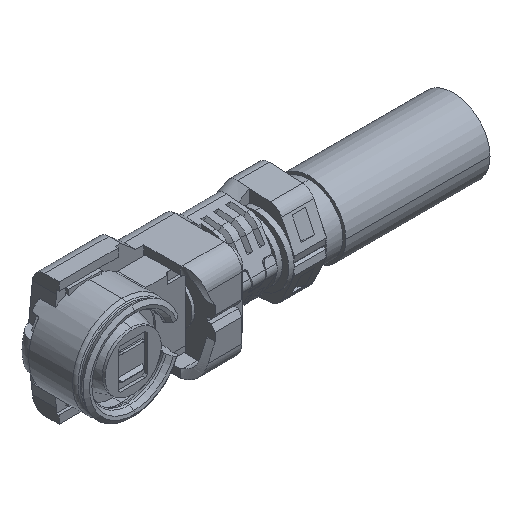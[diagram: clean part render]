
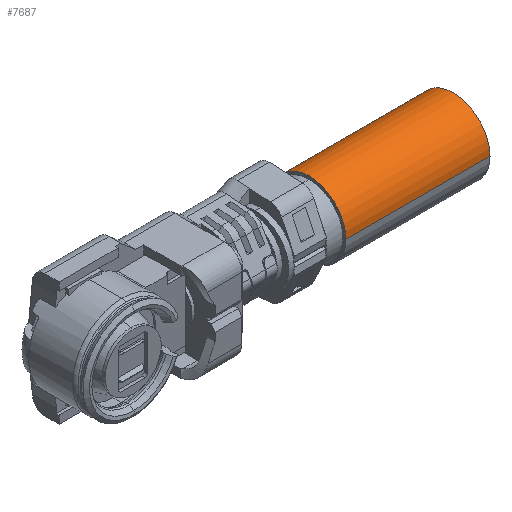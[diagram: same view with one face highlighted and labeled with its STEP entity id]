
A CAD part, isometric view. The second image highlights one B-rep face of the part: STEP entity #7687.
In plain terms, the highlighted cylindrical face has radius 0.685 mm (diameter 1.37 mm), a partial arc.
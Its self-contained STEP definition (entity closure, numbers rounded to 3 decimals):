
#153 = CARTESIAN_POINT ( 'NONE',  ( 6.65, 1.61, 0. ) ) ;
#185 = EDGE_CURVE ( 'NONE', #2855, #8351, #2047, .T. ) ;
#389 = EDGE_CURVE ( 'NONE', #1649, #7450, #2431, .T. ) ;
#684 = DIRECTION ( 'NONE',  ( 0., -1., 0. ) ) ;
#1004 = FACE_OUTER_BOUND ( 'NONE', #3362, .T. ) ;
#1047 = VECTOR ( 'NONE', #5431, 1000. ) ;
#1118 = CARTESIAN_POINT ( 'NONE',  ( 3.96, 0.925, 0. ) ) ;
#1290 = DIRECTION ( 'NONE',  ( -1., 0., 0. ) ) ;
#1521 = DIRECTION ( 'NONE',  ( 1., 0., 0. ) ) ;
#1561 = CARTESIAN_POINT ( 'NONE',  ( 6.65, 0.925, 0. ) ) ;
#1649 = VERTEX_POINT ( 'NONE', #7616 ) ;
#2047 = CIRCLE ( 'NONE', #2295, 0.685 ) ;
#2295 = AXIS2_PLACEMENT_3D ( 'NONE', #2535, #1521, #3314 ) ;
#2431 = CIRCLE ( 'NONE', #8261, 0.685 ) ;
#2535 = CARTESIAN_POINT ( 'NONE',  ( 6.65, 0.925, 0. ) ) ;
#2855 = VERTEX_POINT ( 'NONE', #9719 ) ;
#3054 = CYLINDRICAL_SURFACE ( 'NONE', #9189, 0.685 ) ;
#3314 = DIRECTION ( 'NONE',  ( 0., 1., 0. ) ) ;
#3324 = DIRECTION ( 'NONE',  ( -1., 0., 0. ) ) ;
#3362 = EDGE_LOOP ( 'NONE', ( #9108, #8877, #6139, #5628 ) ) ;
#3581 = DIRECTION ( 'NONE',  ( 0., 1., 0. ) ) ;
#4331 = DIRECTION ( 'NONE',  ( 1., 0., 0. ) ) ;
#5431 = DIRECTION ( 'NONE',  ( -1., 0., 0. ) ) ;
#5596 = VECTOR ( 'NONE', #1290, 1000. ) ;
#5628 = ORIENTED_EDGE ( 'NONE', *, *, #6496, .F. ) ;
#5825 = EDGE_CURVE ( 'NONE', #2855, #1649, #8130, .T. ) ;
#6139 = ORIENTED_EDGE ( 'NONE', *, *, #389, .T. ) ;
#6496 = EDGE_CURVE ( 'NONE', #8351, #7450, #10602, .T. ) ;
#7450 = VERTEX_POINT ( 'NONE', #8325 ) ;
#7472 = CARTESIAN_POINT ( 'NONE',  ( 6.65, 0.24, 0. ) ) ;
#7616 = CARTESIAN_POINT ( 'NONE',  ( 3.96, 1.61, 0. ) ) ;
#7687 = ADVANCED_FACE ( 'NONE', ( #1004 ), #3054, .T. ) ;
#8130 = LINE ( 'NONE', #153, #1047 ) ;
#8261 = AXIS2_PLACEMENT_3D ( 'NONE', #1118, #4331, #3581 ) ;
#8325 = CARTESIAN_POINT ( 'NONE',  ( 3.96, 0.24, 0. ) ) ;
#8351 = VERTEX_POINT ( 'NONE', #8975 ) ;
#8877 = ORIENTED_EDGE ( 'NONE', *, *, #5825, .T. ) ;
#8975 = CARTESIAN_POINT ( 'NONE',  ( 6.65, 0.24, 0. ) ) ;
#9108 = ORIENTED_EDGE ( 'NONE', *, *, #185, .F. ) ;
#9189 = AXIS2_PLACEMENT_3D ( 'NONE', #1561, #3324, #684 ) ;
#9719 = CARTESIAN_POINT ( 'NONE',  ( 6.65, 1.61, 0. ) ) ;
#10602 = LINE ( 'NONE', #7472, #5596 ) ;
